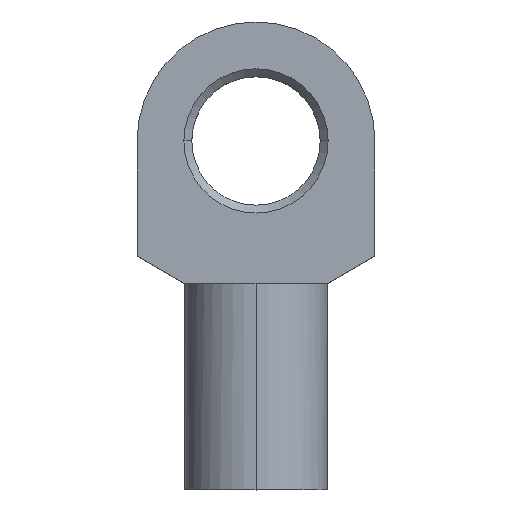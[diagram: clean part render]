
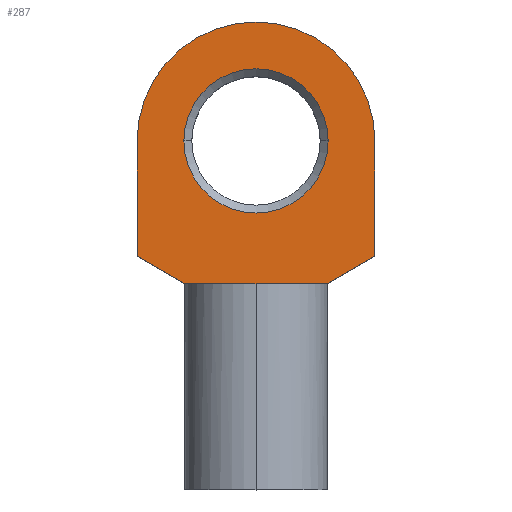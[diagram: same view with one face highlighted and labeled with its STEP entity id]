
A CAD part, top view. The second image highlights one B-rep face of the part: STEP entity #287.
In plain terms, the highlighted planar face has unit normal (0, 0, 1).
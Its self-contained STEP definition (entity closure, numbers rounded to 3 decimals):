
#16 = ORIENTED_EDGE ( 'NONE', *, *, #651, .T. ) ;
#20 = CARTESIAN_POINT ( 'NONE',  ( -4.55, 22., 2.5 ) ) ;
#39 = CARTESIAN_POINT ( 'NONE',  ( 4.5, 13., 2.5 ) ) ;
#42 = FACE_OUTER_BOUND ( 'NONE', #415, .T. ) ;
#52 = ORIENTED_EDGE ( 'NONE', *, *, #600, .T. ) ;
#63 = LINE ( 'NONE', #75, #681 ) ;
#65 = DIRECTION ( 'NONE',  ( 1., 0., 0. ) ) ;
#69 = DIRECTION ( 'NONE',  ( 0.866, 0.5, 0. ) ) ;
#71 = CARTESIAN_POINT ( 'NONE',  ( 4.55, 22., 2.5 ) ) ;
#74 = CARTESIAN_POINT ( 'NONE',  ( 0., 22., 2.5 ) ) ;
#75 = CARTESIAN_POINT ( 'NONE',  ( 4.5, 13., 2.5 ) ) ;
#104 = DIRECTION ( 'NONE',  ( 0., 1., 0. ) ) ;
#109 = EDGE_CURVE ( 'NONE', #570, #344, #481, .T. ) ;
#113 = ORIENTED_EDGE ( 'NONE', *, *, #240, .T. ) ;
#121 = DIRECTION ( 'NONE',  ( 0., 0., 1. ) ) ;
#123 = EDGE_CURVE ( 'NONE', #357, #252, #811, .T. ) ;
#160 = VECTOR ( 'NONE', #412, 1000. ) ;
#173 = ORIENTED_EDGE ( 'NONE', *, *, #123, .T. ) ;
#188 = CIRCLE ( 'NONE', #488, 4.55 ) ;
#189 = LINE ( 'NONE', #561, #472 ) ;
#190 = CARTESIAN_POINT ( 'NONE',  ( -3.742, 13., 2.5 ) ) ;
#218 = CARTESIAN_POINT ( 'NONE',  ( 7.5, 14.732, 2.5 ) ) ;
#226 = ORIENTED_EDGE ( 'NONE', *, *, #597, .T. ) ;
#230 = CARTESIAN_POINT ( 'NONE',  ( 0., 22., 2.5 ) ) ;
#233 = CARTESIAN_POINT ( 'NONE',  ( 7.5, 14.732, 2.5 ) ) ;
#240 = EDGE_CURVE ( 'NONE', #626, #459, #469, .T. ) ;
#241 = CARTESIAN_POINT ( 'NONE',  ( 3.742, 13., 2.5 ) ) ;
#251 = AXIS2_PLACEMENT_3D ( 'NONE', #298, #616, #804 ) ;
#252 = VERTEX_POINT ( 'NONE', #241 ) ;
#259 = CARTESIAN_POINT ( 'NONE',  ( 0., 22., 2.5 ) ) ;
#286 = DIRECTION ( 'NONE',  ( 1., 0., 0. ) ) ;
#287 = ADVANCED_FACE ( 'NONE', ( #476, #42 ), #629, .T. ) ;
#290 = ORIENTED_EDGE ( 'NONE', *, *, #767, .T. ) ;
#298 = CARTESIAN_POINT ( 'NONE',  ( 0., 22., 2.5 ) ) ;
#305 = DIRECTION ( 'NONE',  ( 1., 0., 0. ) ) ;
#313 = EDGE_CURVE ( 'NONE', #487, #679, #189, .T. ) ;
#319 = CARTESIAN_POINT ( 'NONE',  ( -4.5, 13., 2.5 ) ) ;
#321 = AXIS2_PLACEMENT_3D ( 'NONE', #230, #656, #286 ) ;
#336 = ORIENTED_EDGE ( 'NONE', *, *, #440, .T. ) ;
#344 = VERTEX_POINT ( 'NONE', #752 ) ;
#357 = VERTEX_POINT ( 'NONE', #190 ) ;
#375 = ORIENTED_EDGE ( 'NONE', *, *, #313, .T. ) ;
#412 = DIRECTION ( 'NONE',  ( 1., 0., 0. ) ) ;
#415 = EDGE_LOOP ( 'NONE', ( #290, #226, #375, #52, #173, #16, #336, #593 ) ) ;
#432 = LINE ( 'NONE', #634, #462 ) ;
#437 = DIRECTION ( 'NONE',  ( 0., 0., -1. ) ) ;
#440 = EDGE_CURVE ( 'NONE', #791, #570, #63, .T. ) ;
#458 = CARTESIAN_POINT ( 'NONE',  ( -4.5, 13., 2.5 ) ) ;
#459 = VERTEX_POINT ( 'NONE', #20 ) ;
#462 = VECTOR ( 'NONE', #65, 1000. ) ;
#464 = CARTESIAN_POINT ( 'NONE',  ( -4.5, 13., 2.5 ) ) ;
#469 = CIRCLE ( 'NONE', #251, 4.55 ) ;
#470 = ORIENTED_EDGE ( 'NONE', *, *, #640, .T. ) ;
#472 = VECTOR ( 'NONE', #622, 1000. ) ;
#476 = FACE_BOUND ( 'NONE', #619, .T. ) ;
#481 = LINE ( 'NONE', #233, #655 ) ;
#487 = VERTEX_POINT ( 'NONE', #581 ) ;
#488 = AXIS2_PLACEMENT_3D ( 'NONE', #74, #437, #565 ) ;
#491 = LINE ( 'NONE', #458, #613 ) ;
#517 = CARTESIAN_POINT ( 'NONE',  ( -7.5, 22., 2.5 ) ) ;
#561 = CARTESIAN_POINT ( 'NONE',  ( -7.5, 14.732, 2.5 ) ) ;
#565 = DIRECTION ( 'NONE',  ( 1., 0., 0. ) ) ;
#570 = VERTEX_POINT ( 'NONE', #218 ) ;
#581 = CARTESIAN_POINT ( 'NONE',  ( -7.5, 14.732, 2.5 ) ) ;
#588 = DIRECTION ( 'NONE',  ( 1., 0., 0. ) ) ;
#589 = DIRECTION ( 'NONE',  ( 0., -1., 0. ) ) ;
#593 = ORIENTED_EDGE ( 'NONE', *, *, #109, .T. ) ;
#597 = EDGE_CURVE ( 'NONE', #810, #487, #765, .T. ) ;
#600 = EDGE_CURVE ( 'NONE', #679, #357, #491, .T. ) ;
#604 = VECTOR ( 'NONE', #589, 1000. ) ;
#613 = VECTOR ( 'NONE', #588, 1000. ) ;
#616 = DIRECTION ( 'NONE',  ( 0., 0., -1. ) ) ;
#619 = EDGE_LOOP ( 'NONE', ( #113, #470 ) ) ;
#622 = DIRECTION ( 'NONE',  ( 0.866, -0.5, 0. ) ) ;
#626 = VERTEX_POINT ( 'NONE', #71 ) ;
#629 = PLANE ( 'NONE',  #741 ) ;
#634 = CARTESIAN_POINT ( 'NONE',  ( -4.5, 13., 2.5 ) ) ;
#640 = EDGE_CURVE ( 'NONE', #459, #626, #188, .T. ) ;
#642 = CIRCLE ( 'NONE', #321, 7.5 ) ;
#651 = EDGE_CURVE ( 'NONE', #252, #791, #432, .T. ) ;
#655 = VECTOR ( 'NONE', #104, 1000. ) ;
#656 = DIRECTION ( 'NONE',  ( 0., 0., 1. ) ) ;
#679 = VERTEX_POINT ( 'NONE', #319 ) ;
#681 = VECTOR ( 'NONE', #69, 1000. ) ;
#741 = AXIS2_PLACEMENT_3D ( 'NONE', #259, #121, #305 ) ;
#752 = CARTESIAN_POINT ( 'NONE',  ( 7.5, 22., 2.5 ) ) ;
#765 = LINE ( 'NONE', #517, #604 ) ;
#767 = EDGE_CURVE ( 'NONE', #344, #810, #642, .T. ) ;
#780 = CARTESIAN_POINT ( 'NONE',  ( -7.5, 22., 2.5 ) ) ;
#791 = VERTEX_POINT ( 'NONE', #39 ) ;
#804 = DIRECTION ( 'NONE',  ( 1., 0., 0. ) ) ;
#810 = VERTEX_POINT ( 'NONE', #780 ) ;
#811 = LINE ( 'NONE', #464, #160 ) ;
